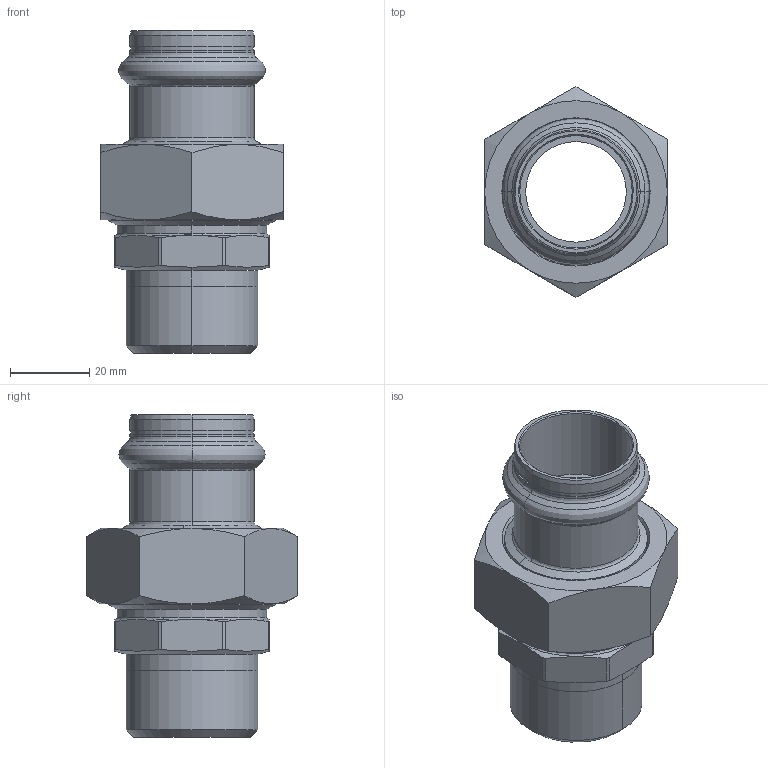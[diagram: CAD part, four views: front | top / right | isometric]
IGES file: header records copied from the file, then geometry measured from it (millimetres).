
Start section: Elysium IGES Interface
Global section: file name: C:\3d modellen sudo\C-Pr VP\SP8331GV\8331GVW281.igs; native system: CoCreate Modeling 17.00A  17-Jun-2010; preprocessor: CoCreate IGES_3D V2.2; author: Unknown; organization: Unknown; date: 20130305.124722; units: millimetre
Bounding box: 46 x 53.12 x 81.2 mm (x, y, z)
Volume: 43961 mm3; surface area: 24806.3 mm2
Topology: 3 solids, 3 shells, 128 faces, 298 edges, 172 vertices
Faces by surface type: bspline 128
